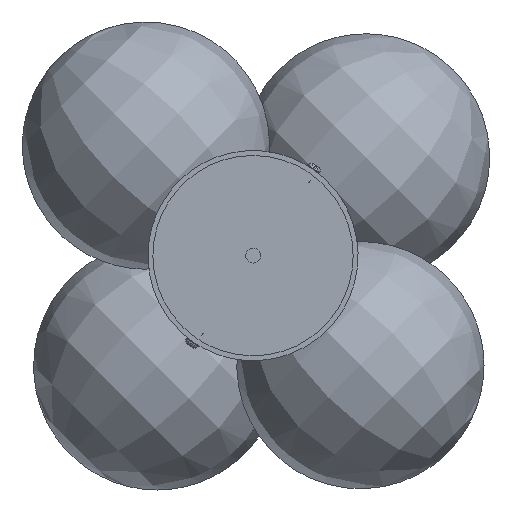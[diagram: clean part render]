
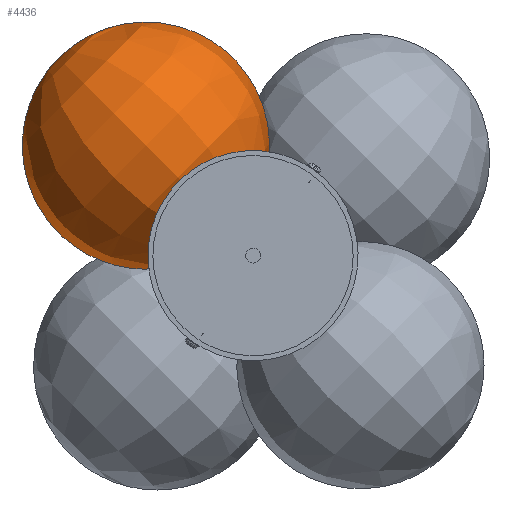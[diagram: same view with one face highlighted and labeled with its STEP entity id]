
A CAD part, front view. The second image highlights one B-rep face of the part: STEP entity #4436.
In plain terms, the highlighted free-form (B-spline) face has degree [2, 2] with [9, 5] control points.
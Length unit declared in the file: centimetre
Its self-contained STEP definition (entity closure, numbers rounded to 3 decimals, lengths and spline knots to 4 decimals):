
#4348 = CARTESIAN_POINT ('', (-0.795, 92.7059, 0.9172));
#4349 = VERTEX_POINT ('', #4348);
#4350 = CARTESIAN_POINT ('', (-7.8661, 92.7059, 7.9883));
#4351 = VERTEX_POINT ('', #4350);
#4352 = CARTESIAN_POINT ('', (-0.795, 92.7059, 0.9172));
#4353 = CARTESIAN_POINT ('', (2.7405, 92.7059, 4.4527));
#4354 = CARTESIAN_POINT ('', (-0.795, 92.7059, 7.9883));
#4355 = CARTESIAN_POINT ('', (-4.3305, 92.7059, 11.5238));
#4356 = CARTESIAN_POINT ('', (-7.8661, 92.7059, 7.9883));
#4357 = (
   BOUNDED_CURVE ()
   B_SPLINE_CURVE (2, (#4352, #4353, #4354, #4355, #4356), .UNSPECIFIED., .F., .U.)
   B_SPLINE_CURVE_WITH_KNOTS ((3, 2, 3), (0., 0.5, 1.), .UNSPECIFIED.)
   CURVE ()
   GEOMETRIC_REPRESENTATION_ITEM ()
   RATIONAL_B_SPLINE_CURVE ((1., 0.707, 1., 0.707, 1.))
   REPRESENTATION_ITEM ('')
);
#4358 = EDGE_CURVE ('', #4349, #4351, #4357, .T.);
#4359 = ORIENTED_EDGE ('', *, *, #4358, .T.);
#4360 = CARTESIAN_POINT ('', (-0.795, 92.7059, 0.9172));
#4361 = CARTESIAN_POINT ('', (-1.2578, 92.7059, 0.4544));
#4362 = CARTESIAN_POINT ('', (-1.8125, 92.7059, 0.0838));
#4363 = CARTESIAN_POINT ('', (-2.4171, 92.7059, -0.1667));
#4364 = CARTESIAN_POINT ('', (-3.0218, 92.7059, -0.4171));
#4365 = CARTESIAN_POINT ('', (-3.676, 92.7059, -0.5473));
#4366 = CARTESIAN_POINT ('', (-4.3305, 92.7059, -0.5473));
#4367 = CARTESIAN_POINT ('', (-4.985, 92.7059, -0.5473));
#4368 = CARTESIAN_POINT ('', (-5.6393, 92.7059, -0.4171));
#4369 = CARTESIAN_POINT ('', (-6.244, 92.7059, -0.1667));
#4370 = CARTESIAN_POINT ('', (-6.8486, 92.7059, 0.0838));
#4371 = CARTESIAN_POINT ('', (-7.4033, 92.7059, 0.4544));
#4372 = CARTESIAN_POINT ('', (-7.8661, 92.7059, 0.9172));
#4373 = CARTESIAN_POINT ('', (-8.3289, 92.7059, 1.38));
#4374 = CARTESIAN_POINT ('', (-8.6995, 92.7059, 1.9346));
#4375 = CARTESIAN_POINT ('', (-8.9499, 92.7059, 2.5393));
#4376 = CARTESIAN_POINT ('', (-9.2004, 92.7059, 3.144));
#4377 = CARTESIAN_POINT ('', (-9.3305, 92.7059, 3.7982));
#4378 = CARTESIAN_POINT ('', (-9.3305, 92.7059, 4.4527));
#4379 = CARTESIAN_POINT ('', (-9.3305, 92.7059, 5.1072));
#4380 = CARTESIAN_POINT ('', (-9.2004, 92.7059, 5.7615));
#4381 = CARTESIAN_POINT ('', (-8.9499, 92.7059, 6.3662));
#4382 = CARTESIAN_POINT ('', (-8.6995, 92.7059, 6.9708));
#4383 = CARTESIAN_POINT ('', (-8.3289, 92.7059, 7.5255));
#4384 = CARTESIAN_POINT ('', (-7.8661, 92.7059, 7.9883));
#4385 = B_SPLINE_CURVE_WITH_KNOTS ('', 3, (#4360, #4361, #4362, #4363, #4364, #4365, #4366, #4367, #4368, #4369, #4370, #4371, #4372, #4373, #4374, #4375, #4376, #4377, #4378, #4379, #4380, #4381, #4382, #4383, #4384), .UNSPECIFIED., .F., .U., (4, 3, 3, 3, 3, 3, 3, 3, 4), (0., 0.125, 0.25, 0.375, 0.5, 0.625, 0.75, 0.875, 1.), .UNSPECIFIED.);
#4386 = EDGE_CURVE ('', #4349, #4351, #4385, .T.);
#4387 = ORIENTED_EDGE ('', *, *, #4386, .F.);
#4388 = EDGE_LOOP ('', (#4359, #4387));
#4389 = FACE_OUTER_BOUND ('', #4388, .T.);
#4390 = CARTESIAN_POINT ('', (-7.8661, 92.7059, 7.9883));
#4391 = CARTESIAN_POINT ('', (-4.3305, 92.7059, 11.5238));
#4392 = CARTESIAN_POINT ('', (-0.795, 92.7059, 7.9883));
#4393 = CARTESIAN_POINT ('', (2.7405, 92.7059, 4.4527));
#4394 = CARTESIAN_POINT ('', (-0.795, 92.7059, 0.9172));
#4395 = CARTESIAN_POINT ('', (-7.8661, 92.7059, 7.9883));
#4396 = CARTESIAN_POINT ('', (-4.3305, 87.7059, 11.5238));
#4397 = CARTESIAN_POINT ('', (-0.795, 87.7059, 7.9883));
#4398 = CARTESIAN_POINT ('', (2.7405, 87.7059, 4.4527));
#4399 = CARTESIAN_POINT ('', (-0.795, 92.7059, 0.9172));
#4400 = CARTESIAN_POINT ('', (-7.8661, 92.7059, 7.9883));
#4401 = CARTESIAN_POINT ('', (-7.8661, 87.7059, 7.9883));
#4402 = CARTESIAN_POINT ('', (-4.3305, 87.7059, 4.4527));
#4403 = CARTESIAN_POINT ('', (-0.795, 87.7059, 0.9172));
#4404 = CARTESIAN_POINT ('', (-0.795, 92.7059, 0.9172));
#4405 = CARTESIAN_POINT ('', (-7.8661, 92.7059, 7.9883));
#4406 = CARTESIAN_POINT ('', (-11.4016, 87.7059, 4.4527));
#4407 = CARTESIAN_POINT ('', (-7.8661, 87.7059, 0.9172));
#4408 = CARTESIAN_POINT ('', (-4.3305, 87.7059, -2.6183));
#4409 = CARTESIAN_POINT ('', (-0.795, 92.7059, 0.9172));
#4410 = CARTESIAN_POINT ('', (-7.8661, 92.7059, 7.9883));
#4411 = CARTESIAN_POINT ('', (-11.4016, 92.7059, 4.4527));
#4412 = CARTESIAN_POINT ('', (-7.8661, 92.7059, 0.9172));
#4413 = CARTESIAN_POINT ('', (-4.3305, 92.7059, -2.6183));
#4414 = CARTESIAN_POINT ('', (-0.795, 92.7059, 0.9172));
#4415 = CARTESIAN_POINT ('', (-7.8661, 92.7059, 7.9883));
#4416 = CARTESIAN_POINT ('', (-11.4016, 97.7059, 4.4527));
#4417 = CARTESIAN_POINT ('', (-7.8661, 97.7059, 0.9172));
#4418 = CARTESIAN_POINT ('', (-4.3305, 97.7059, -2.6183));
#4419 = CARTESIAN_POINT ('', (-0.795, 92.7059, 0.9172));
#4420 = CARTESIAN_POINT ('', (-7.8661, 92.7059, 7.9883));
#4421 = CARTESIAN_POINT ('', (-7.8661, 97.7059, 7.9883));
#4422 = CARTESIAN_POINT ('', (-4.3305, 97.7059, 4.4527));
#4423 = CARTESIAN_POINT ('', (-0.795, 97.7059, 0.9172));
#4424 = CARTESIAN_POINT ('', (-0.795, 92.7059, 0.9172));
#4425 = CARTESIAN_POINT ('', (-7.8661, 92.7059, 7.9883));
#4426 = CARTESIAN_POINT ('', (-4.3305, 97.7059, 11.5238));
#4427 = CARTESIAN_POINT ('', (-0.795, 97.7059, 7.9883));
#4428 = CARTESIAN_POINT ('', (2.7405, 97.7059, 4.4527));
#4429 = CARTESIAN_POINT ('', (-0.795, 92.7059, 0.9172));
#4430 = CARTESIAN_POINT ('', (-7.8661, 92.7059, 7.9883));
#4431 = CARTESIAN_POINT ('', (-4.3305, 92.7059, 11.5238));
#4432 = CARTESIAN_POINT ('', (-0.795, 92.7059, 7.9883));
#4433 = CARTESIAN_POINT ('', (2.7405, 92.7059, 4.4527));
#4434 = CARTESIAN_POINT ('', (-0.795, 92.7059, 0.9172));
#4435 = (
   BOUNDED_SURFACE ()
   B_SPLINE_SURFACE (2, 2, ((#4390, #4391, #4392, #4393, #4394), (#4395, #4396, #4397, #4398, #4399), (#4400, #4401, #4402, #4403, #4404), (#4405, #4406, #4407, #4408, #4409), (#4410, #4411, #4412, #4413, #4414), (#4415, #4416, #4417, #4418, #4419), (#4420, #4421, #4422, #4423, #4424), (#4425, #4426, #4427, #4428, #4429), (#4430, #4431, #4432, #4433, #4434)), .UNSPECIFIED., .T., .F., .U.)
   B_SPLINE_SURFACE_WITH_KNOTS ((3, 2, 2, 2, 3), (3, 2, 3), (0., 0.25, 0.5, 0.75, 1.), (0., 0.5, 1.), .UNSPECIFIED.)
   SURFACE ()
   GEOMETRIC_REPRESENTATION_ITEM ()
   RATIONAL_B_SPLINE_SURFACE (((1., 0.707, 1., 0.707, 1.), (0.707, 0.5, 0.707, 0.5, 0.707), (1., 0.707, 1., 0.707, 1.), (0.707, 0.5, 0.707, 0.5, 0.707), (1., 0.707, 1., 0.707, 1.), (0.707, 0.5, 0.707, 0.5, 0.707), (1., 0.707, 1., 0.707, 1.), (0.707, 0.5, 0.707, 0.5, 0.707), (1., 0.707, 1., 0.707, 1.)))
   REPRESENTATION_ITEM ('')
);
#4436 = ADVANCED_FACE ('', (#4389), #4435, .T.);
